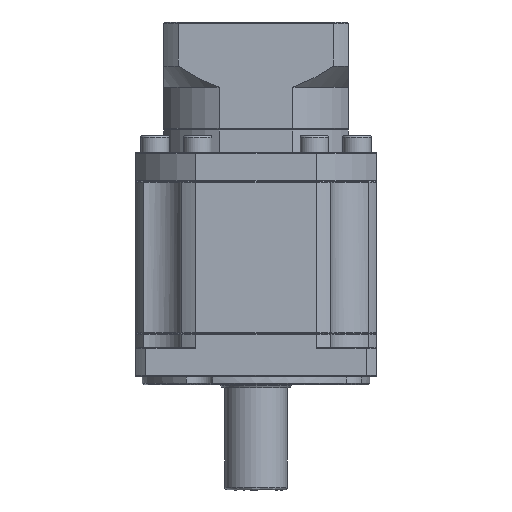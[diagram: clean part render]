
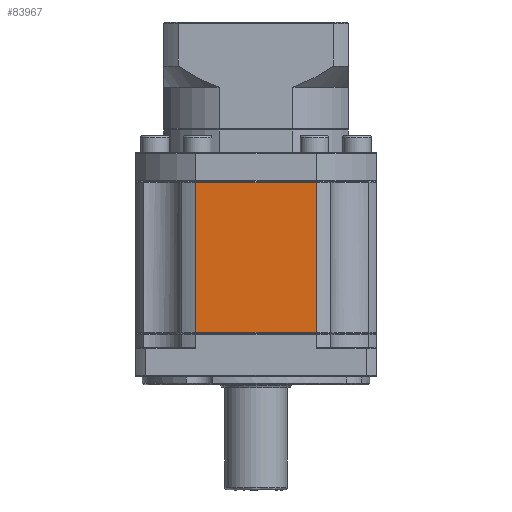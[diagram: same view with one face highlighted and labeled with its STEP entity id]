
A CAD part, front view. The second image highlights one B-rep face of the part: STEP entity #83967.
In plain terms, the highlighted planar face has unit normal (0, -1, 0).
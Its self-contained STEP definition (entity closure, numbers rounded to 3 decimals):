
#3870 = LINE ( 'NONE', #13657, #93248 ) ;
#7734 = PLANE ( 'NONE',  #69664 ) ;
#9204 = ORIENTED_EDGE ( 'NONE', *, *, #25548, .F. ) ;
#13657 = CARTESIAN_POINT ( 'NONE',  ( -71.54, -20.417, -22.572 ) ) ;
#17494 = CARTESIAN_POINT ( 'NONE',  ( -50.326, -20.417, -75.572 ) ) ;
#20755 = CARTESIAN_POINT ( 'NONE',  ( -50.326, -20.417, -22.572 ) ) ;
#22096 = EDGE_CURVE ( 'NONE', #104056, #111990, #93935, .T. ) ;
#22721 = VECTOR ( 'NONE', #79471, 1000. ) ;
#25458 = ORIENTED_EDGE ( 'NONE', *, *, #86502, .F. ) ;
#25548 = EDGE_CURVE ( 'NONE', #115029, #41018, #80262, .T. ) ;
#26057 = CARTESIAN_POINT ( 'NONE',  ( -50.326, -20.417, -22.322 ) ) ;
#27293 = CARTESIAN_POINT ( 'NONE',  ( -92.753, -20.417, -22.572 ) ) ;
#30002 = VECTOR ( 'NONE', #59088, 1000. ) ;
#41018 = VERTEX_POINT ( 'NONE', #27293 ) ;
#42616 = VECTOR ( 'NONE', #61977, 1000. ) ;
#43658 = CARTESIAN_POINT ( 'NONE',  ( -50.326, -20.417, -22.322 ) ) ;
#50826 = EDGE_CURVE ( 'NONE', #41018, #104056, #3870, .T. ) ;
#52630 = DIRECTION ( 'NONE',  ( 0., 0., 1. ) ) ;
#57217 = EDGE_LOOP ( 'NONE', ( #25458, #84173, #83053, #9204 ) ) ;
#59088 = DIRECTION ( 'NONE',  ( 0., 0., 1. ) ) ;
#61745 = CARTESIAN_POINT ( 'NONE',  ( -50.326, -20.417, -75.572 ) ) ;
#61977 = DIRECTION ( 'NONE',  ( -1., 0., 0. ) ) ;
#68619 = FACE_OUTER_BOUND ( 'NONE', #57217, .T. ) ;
#69664 = AXIS2_PLACEMENT_3D ( 'NONE', #43658, #106011, #52630 ) ;
#79471 = DIRECTION ( 'NONE',  ( 0., 0., -1. ) ) ;
#80262 = LINE ( 'NONE', #112480, #30002 ) ;
#83053 = ORIENTED_EDGE ( 'NONE', *, *, #50826, .F. ) ;
#83967 = ADVANCED_FACE ( 'NONE', ( #68619 ), #7734, .F. ) ;
#84173 = ORIENTED_EDGE ( 'NONE', *, *, #22096, .F. ) ;
#86502 = EDGE_CURVE ( 'NONE', #111990, #115029, #92823, .T. ) ;
#92823 = LINE ( 'NONE', #17494, #42616 ) ;
#93248 = VECTOR ( 'NONE', #94028, 1000. ) ;
#93935 = LINE ( 'NONE', #26057, #22721 ) ;
#94028 = DIRECTION ( 'NONE',  ( 1., 0., 0. ) ) ;
#99578 = CARTESIAN_POINT ( 'NONE',  ( -92.753, -20.417, -75.572 ) ) ;
#104056 = VERTEX_POINT ( 'NONE', #20755 ) ;
#106011 = DIRECTION ( 'NONE',  ( 0., 1., 0. ) ) ;
#111990 = VERTEX_POINT ( 'NONE', #61745 ) ;
#112480 = CARTESIAN_POINT ( 'NONE',  ( -92.753, -20.417, -22.322 ) ) ;
#115029 = VERTEX_POINT ( 'NONE', #99578 ) ;
